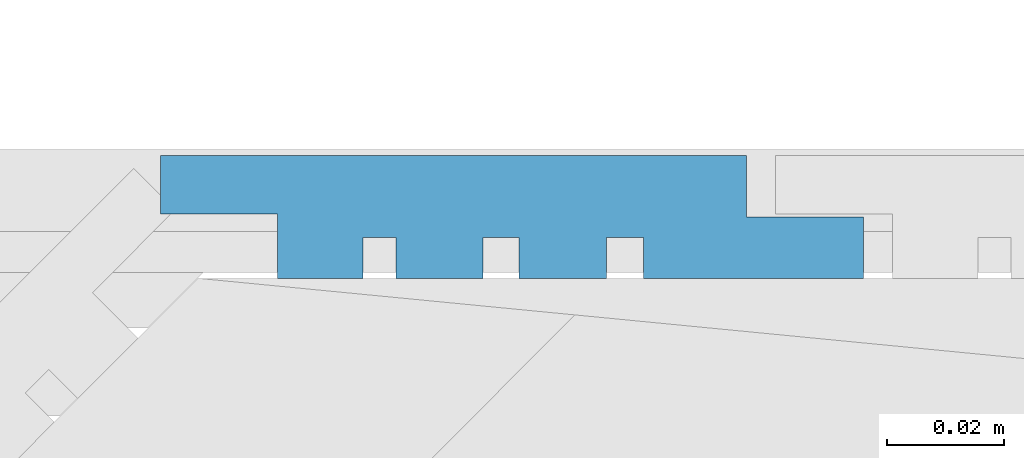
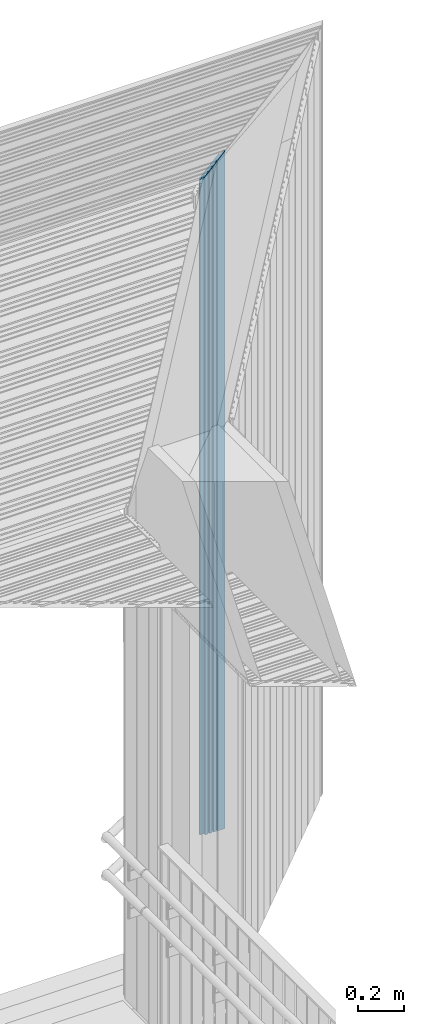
# One storey, part 144 of 418: 1 building element part, 1 element without a shape of its own.
"""IFC2X3 building model written with IfcOpenShell, lengths in millimetres."""

from ifc_helpers import new_model, entity, si_unit, converted_unit, derived_unit, money_unit, direction, frame, origin_with_axes, place, context, subcontext, project, spatial, polyline, outline, extrude, boolean, faceted_brep, material, type_object, element, aggregate, save


model = new_model("IFC2X3")

# Units and contexts
model_context = context("Model", 3, precision=0.01, world=origin_with_axes(), true_north=direction((0.0, 1.0)))
body_context = subcontext(model_context, "Body", "Model", "MODEL_VIEW")
ifc_project = project(units=[si_unit("LENGTHUNIT", "METRE", prefix="MILLI"), si_unit("AREAUNIT", "SQUARE_METRE"), si_unit("VOLUMEUNIT", "CUBIC_METRE"), converted_unit("PLANEANGLEUNIT", "DEGREE", entity("IfcPlaneAngleMeasure", 0.0174532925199), si_unit("PLANEANGLEUNIT", "RADIAN"), dimensions=[0, 0, 0, 0, 0, 0, 0]), si_unit("SOLIDANGLEUNIT", "STERADIAN"), money_unit("EUR"), converted_unit("TIMEUNIT", "Year", entity("IfcTimeMeasure", 31556926.0), si_unit("TIMEUNIT", "SECOND"), dimensions=[0, 0, 1, 0, 0, 0, 0]), si_unit("MASSUNIT", "GRAM", prefix="KILO"), si_unit("THERMODYNAMICTEMPERATUREUNIT", "DEGREE_CELSIUS"), si_unit("LUMINOUSINTENSITYUNIT", "LUMEN"), si_unit("ENERGYUNIT", "JOULE", prefix="MEGA"), derived_unit("THERMALCONDUCTANCEUNIT", [(si_unit("POWERUNIT", "WATT"), 1), (si_unit("LENGTHUNIT", "METRE"), -1), (si_unit("THERMODYNAMICTEMPERATUREUNIT", "KELVIN"), -1)]), derived_unit("SPECIFICHEATCAPACITYUNIT", [(si_unit("ENERGYUNIT", "JOULE"), 1), (si_unit("MASSUNIT", "GRAM", prefix="KILO"), -1), (si_unit("THERMODYNAMICTEMPERATUREUNIT", "KELVIN"), -1)]), derived_unit("MASSDENSITYUNIT", [(si_unit("MASSUNIT", "GRAM", prefix="KILO"), 1), (si_unit("VOLUMEUNIT", "CUBIC_METRE"), -1)])], contexts=[model_context])

# Site, building, storey
site_placement = place(None, origin_with_axes())
site = spatial("IfcSite", under=ifc_project, at=site_placement, Name="Paldiski mnt 245/1, Tallinn, Harjumaa", CompositionType="COMPLEX")
building_placement = place(site_placement, origin_with_axes())
building = spatial("IfcBuilding", under=site, at=building_placement, Name="RKAS Hoone üldnimetus (kasutust iseloomustav) -> IFC Project Manager -> SOLIBRI", CompositionType="ELEMENT")
storey_placement = place(building_placement, origin_with_axes())
storey = spatial("IfcBuildingStorey", under=building, at=storey_placement, Name="Esimene korrus", CompositionType="ELEMENT", Elevation=0.0)

# Proxy, building element part
building_element_proxy_type = type_object("IfcBuildingElementProxyType", Name="Laudis esiprofiil_01 21 x 622", PredefinedType="NOTDEFINED")
proxy_placement = place(storey_placement, frame((-46724.4601459, 39788.252735, 0.0), z_axis=(0.0, 0.0, 1.0), x_axis=(0.0, -1.0, 0.0)))
proxy = element("IfcBuildingElementProxy", 1, at=proxy_placement, inside=storey, type_object=building_element_proxy_type, Name="Varikatus")
ifc_material = material(Name="Laudis 5072 Honka 45 horisontaalne raastas")
building_element_part_placement = place(proxy_placement, origin_with_axes())
building_element_part = element("IfcBuildingElementPart", 2, at=building_element_part_placement, material=ifc_material, Name="Laudis 5072 Honka 45 horisontaalne raastas", context=body_context, shape_type="CSG", body=[
    boolean("DIFFERENCE", boolean("DIFFERENCE", boolean("DIFFERENCE", boolean("DIFFERENCE", boolean("DIFFERENCE", boolean("DIFFERENCE", extrude(outline(polyline([(3.20348192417e-08, -520.971430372), (-10.5000010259, -520.971430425), (-10.5000005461, -500.971429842), (-20.9999998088, -500.971430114), (-21.0000010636, -538.497524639), (-14.0000005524, -538.497525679), (-14.0000003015, -544.860022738), (-20.99999981, -544.860022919), (-20.9999998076, -559.79914009), (-14.0000002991, -559.799139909), (-14.0000007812, -565.926080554), (-21.0000002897, -565.926080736), (-21.0000013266, -580.754573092), (-14.0000008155, -580.754574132), (-14.0000015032, -586.395242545), (-21.0000010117, -586.395242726), (-21.0000007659, -600.971429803), (-10.000001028, -600.971430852), (-10.0000002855, -620.971430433), (-7.63172636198e-07, -620.971430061), (3.20348192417e-08, -520.971430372)])), frame((0.0, 0.0, 0.0), z_axis=(0.0, 0.0, -1.0), x_axis=(-1.0, 0.0, 0.0)), (0.0, 0.0, -1.0), 4086.15997799), faceted_brep([(20.9999998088, -395.971430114, 3689.02857107), (10.5000005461, -395.971429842, 3689.02857134), (10.5000005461, -395.971429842, 4086.15997799), (20.9999998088, -395.971430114, 4086.15997799), (10.5000010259, -415.971430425, 3669.02857076), (21.0000010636, -433.497524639, 3651.50247655), (14.0000005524, -433.497525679, 3651.50247551), (14.0000003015, -439.860022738, 3645.13997845), (20.99999981, -439.860022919, 3645.13997827), (20.9999998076, -454.79914009, 3630.20086109), (14.0000002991, -454.799139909, 3630.20086128), (14.0000007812, -460.926080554, 3624.07392063), (21.0000002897, -460.926080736, 3624.07392045), (21.0000013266, -475.754573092, 3609.24542809), (14.0000008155, -475.754574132, 3609.24542705), (14.0000015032, -481.395242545, 3603.60475864), (21.0000010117, -481.395242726, 3603.60475846), (21.0000007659, -495.971429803, 3589.02857138), (10.000001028, -495.971430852, 3589.02857033), (10.0000002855, -515.971430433, 3569.02857075), (7.6316553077e-07, -515.971430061, 3569.02857112), (-3.20383719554e-08, -415.971430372, 3669.02857081), (10.5000010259, -415.971430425, 4086.15997799), (-3.20383719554e-08, -415.971430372, 4086.15997799), (7.6316553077e-07, -515.971430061, 4086.15997799), (10.0000002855, -515.971430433, 4086.15997799), (10.000001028, -495.971430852, 4086.15997799), (21.0000007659, -495.971429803, 4086.15997799), (21.0000010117, -481.395242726, 4086.15997799), (14.0000015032, -481.395242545, 4086.15997799), (14.0000008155, -475.754574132, 4086.15997799), (21.0000013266, -475.754573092, 4086.15997799), (21.0000002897, -460.926080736, 4086.15997799), (14.0000007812, -460.926080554, 4086.15997799), (14.0000002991, -454.799139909, 4086.15997799), (20.9999998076, -454.79914009, 4086.15997799), (20.99999981, -439.860022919, 4086.15997799), (14.0000003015, -439.860022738, 4086.15997799), (14.0000005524, -433.497525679, 4086.15997799), (21.0000010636, -433.497524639, 4086.15997799)], [[[0, 1, 2, 3]], [[4, 1, 0, 5, 6, 7, 8, 9, 10, 11, 12, 13, 14, 15, 16, 17, 18, 19, 20, 21]], [[1, 4, 22, 2]], [[22, 23, 24, 25, 26, 27, 28, 29, 30, 31, 32, 33, 34, 35, 36, 37, 38, 39, 3, 2]], [[5, 0, 3, 39]], [[6, 5, 39, 38]], [[7, 6, 38, 37]], [[8, 7, 37, 36]], [[9, 8, 36, 35]], [[10, 9, 35, 34]], [[11, 10, 34, 33]], [[12, 11, 33, 32]], [[13, 12, 32, 31]], [[14, 13, 31, 30]], [[15, 14, 30, 29]], [[16, 15, 29, 28]], [[17, 16, 28, 27]], [[18, 17, 27, 26]], [[19, 18, 26, 25]], [[20, 19, 25, 24]], [[21, 20, 24, 23]], [[4, 21, 23, 22]]])), faceted_brep([(20.9999998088, -500.971430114, 3584.02857107), (10.5000005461, -500.971429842, 3584.02857134), (10.5000005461, -500.971429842, 4086.15997799), (20.9999998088, -500.971430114, 4086.15997799), (10.5000010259, -520.971430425, 3564.02857076), (21.0000010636, -538.497524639, 3546.50247655), (14.0000005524, -538.497525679, 3546.50247551), (14.0000003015, -544.860022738, 3540.13997845), (20.99999981, -544.860022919, 3540.13997827), (20.9999998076, -559.79914009, 3525.20086109), (14.0000002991, -559.799139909, 3525.20086128), (14.0000007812, -565.926080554, 3519.07392063), (21.0000002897, -565.926080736, 3519.07392045), (21.0000013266, -580.754573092, 3504.24542809), (14.0000008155, -580.754574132, 3504.24542705), (14.0000015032, -586.395242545, 3498.60475864), (21.0000010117, -586.395242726, 3498.60475846), (21.0000007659, -600.971429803, 3484.02857138), (10.000001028, -600.971430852, 3484.02857033), (10.0000002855, -620.971430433, 3464.02857075), (7.63172636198e-07, -620.971430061, 3464.02857112), (-3.20383719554e-08, -520.971430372, 3564.02857081), (10.5000010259, -520.971430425, 4086.15997799), (-3.20383719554e-08, -520.971430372, 4086.15997799), (7.63172636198e-07, -620.971430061, 4086.15997799), (10.0000002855, -620.971430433, 4086.15997799), (10.000001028, -600.971430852, 4086.15997799), (21.0000007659, -600.971429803, 4086.15997799), (21.0000010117, -586.395242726, 4086.15997799), (14.0000015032, -586.395242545, 4086.15997799), (14.0000008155, -580.754574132, 4086.15997799), (21.0000013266, -580.754573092, 4086.15997799), (21.0000002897, -565.926080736, 4086.15997799), (14.0000007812, -565.926080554, 4086.15997799), (14.0000002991, -559.799139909, 4086.15997799), (20.9999998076, -559.79914009, 4086.15997799), (20.99999981, -544.860022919, 4086.15997799), (14.0000003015, -544.860022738, 4086.15997799), (14.0000005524, -538.497525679, 4086.15997799), (21.0000010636, -538.497524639, 4086.15997799)], [[[0, 1, 2, 3]], [[4, 1, 0, 5, 6, 7, 8, 9, 10, 11, 12, 13, 14, 15, 16, 17, 18, 19, 20, 21]], [[1, 4, 22, 2]], [[22, 23, 24, 25, 26, 27, 28, 29, 30, 31, 32, 33, 34, 35, 36, 37, 38, 39, 3, 2]], [[5, 0, 3, 39]], [[6, 5, 39, 38]], [[7, 6, 38, 37]], [[8, 7, 37, 36]], [[9, 8, 36, 35]], [[10, 9, 35, 34]], [[11, 10, 34, 33]], [[12, 11, 33, 32]], [[13, 12, 32, 31]], [[14, 13, 31, 30]], [[15, 14, 30, 29]], [[16, 15, 29, 28]], [[17, 16, 28, 27]], [[18, 17, 27, 26]], [[19, 18, 26, 25]], [[20, 19, 25, 24]], [[21, 20, 24, 23]], [[4, 21, 23, 22]]])), faceted_brep([(20.9999998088, -185.971430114, 3899.02857107), (10.5000005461, -185.971429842, 3899.02857134), (10.5000005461, -185.971429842, 4086.15997799), (20.9999998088, -185.971430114, 4086.15997799), (10.5000010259, -205.971430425, 3879.02857076), (21.0000010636, -223.497524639, 3861.50247655), (14.0000005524, -223.497525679, 3861.50247551), (14.0000003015, -229.860022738, 3855.13997845), (20.99999981, -229.860022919, 3855.13997827), (20.9999998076, -244.79914009, 3840.20086109), (14.0000002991, -244.799139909, 3840.20086128), (14.0000007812, -250.926080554, 3834.07392063), (21.0000002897, -250.926080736, 3834.07392045), (21.0000013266, -265.754573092, 3819.24542809), (14.0000008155, -265.754574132, 3819.24542705), (14.0000015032, -271.395242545, 3813.60475864), (21.0000010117, -271.395242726, 3813.60475846), (21.0000007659, -285.971429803, 3799.02857138), (10.000001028, -285.971430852, 3799.02857033), (10.0000002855, -305.971430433, 3779.02857075), (7.63172636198e-07, -305.971430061, 3779.02857112), (-3.20383719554e-08, -205.971430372, 3879.02857081), (10.5000010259, -205.971430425, 4086.15997799), (-3.20383719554e-08, -205.971430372, 4086.15997799), (7.63172636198e-07, -305.971430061, 4086.15997799), (10.0000002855, -305.971430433, 4086.15997799), (10.000001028, -285.971430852, 4086.15997799), (21.0000007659, -285.971429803, 4086.15997799), (21.0000010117, -271.395242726, 4086.15997799), (14.0000015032, -271.395242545, 4086.15997799), (14.0000008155, -265.754574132, 4086.15997799), (21.0000013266, -265.754573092, 4086.15997799), (21.0000002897, -250.926080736, 4086.15997799), (14.0000007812, -250.926080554, 4086.15997799), (14.0000002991, -244.799139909, 4086.15997799), (20.9999998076, -244.79914009, 4086.15997799), (20.99999981, -229.860022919, 4086.15997799), (14.0000003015, -229.860022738, 4086.15997799), (14.0000005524, -223.497525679, 4086.15997799), (21.0000010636, -223.497524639, 4086.15997799)], [[[0, 1, 2, 3]], [[4, 1, 0, 5, 6, 7, 8, 9, 10, 11, 12, 13, 14, 15, 16, 17, 18, 19, 20, 21]], [[1, 4, 22, 2]], [[22, 23, 24, 25, 26, 27, 28, 29, 30, 31, 32, 33, 34, 35, 36, 37, 38, 39, 3, 2]], [[5, 0, 3, 39]], [[6, 5, 39, 38]], [[7, 6, 38, 37]], [[8, 7, 37, 36]], [[9, 8, 36, 35]], [[10, 9, 35, 34]], [[11, 10, 34, 33]], [[12, 11, 33, 32]], [[13, 12, 32, 31]], [[14, 13, 31, 30]], [[15, 14, 30, 29]], [[16, 15, 29, 28]], [[17, 16, 28, 27]], [[18, 17, 27, 26]], [[19, 18, 26, 25]], [[20, 19, 25, 24]], [[21, 20, 24, 23]], [[4, 21, 23, 22]]])), faceted_brep([(20.9999998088, -290.971430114, 3794.02857107), (10.5000005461, -290.971429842, 3794.02857134), (10.5000005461, -290.971429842, 4086.15997799), (20.9999998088, -290.971430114, 4086.15997799), (10.5000010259, -310.971430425, 3774.02857076), (21.0000010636, -328.497524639, 3756.50247655), (14.0000005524, -328.497525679, 3756.50247551), (14.0000003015, -334.860022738, 3750.13997845), (20.99999981, -334.860022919, 3750.13997827), (20.9999998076, -349.79914009, 3735.20086109), (14.0000002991, -349.799139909, 3735.20086128), (14.0000007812, -355.926080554, 3729.07392063), (21.0000002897, -355.926080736, 3729.07392045), (21.0000013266, -370.754573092, 3714.24542809), (14.0000008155, -370.754574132, 3714.24542705), (14.0000015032, -376.395242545, 3708.60475864), (21.0000010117, -376.395242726, 3708.60475846), (21.0000007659, -390.971429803, 3694.02857138), (10.000001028, -390.971430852, 3694.02857033), (10.0000002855, -410.971430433, 3674.02857075), (7.6316553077e-07, -410.971430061, 3674.02857112), (-3.20383719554e-08, -310.971430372, 3774.02857081), (10.5000010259, -310.971430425, 4086.15997799), (-3.20383719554e-08, -310.971430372, 4086.15997799), (7.6316553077e-07, -410.971430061, 4086.15997799), (10.0000002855, -410.971430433, 4086.15997799), (10.000001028, -390.971430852, 4086.15997799), (21.0000007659, -390.971429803, 4086.15997799), (21.0000010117, -376.395242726, 4086.15997799), (14.0000015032, -376.395242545, 4086.15997799), (14.0000008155, -370.754574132, 4086.15997799), (21.0000013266, -370.754573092, 4086.15997799), (21.0000002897, -355.926080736, 4086.15997799), (14.0000007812, -355.926080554, 4086.15997799), (14.0000002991, -349.799139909, 4086.15997799), (20.9999998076, -349.79914009, 4086.15997799), (20.99999981, -334.860022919, 4086.15997799), (14.0000003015, -334.860022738, 4086.15997799), (14.0000005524, -328.497525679, 4086.15997799), (21.0000010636, -328.497524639, 4086.15997799)], [[[0, 1, 2, 3]], [[4, 1, 0, 5, 6, 7, 8, 9, 10, 11, 12, 13, 14, 15, 16, 17, 18, 19, 20, 21]], [[1, 4, 22, 2]], [[22, 23, 24, 25, 26, 27, 28, 29, 30, 31, 32, 33, 34, 35, 36, 37, 38, 39, 3, 2]], [[5, 0, 3, 39]], [[6, 5, 39, 38]], [[7, 6, 38, 37]], [[8, 7, 37, 36]], [[9, 8, 36, 35]], [[10, 9, 35, 34]], [[11, 10, 34, 33]], [[12, 11, 33, 32]], [[13, 12, 32, 31]], [[14, 13, 31, 30]], [[15, 14, 30, 29]], [[16, 15, 29, 28]], [[17, 16, 28, 27]], [[18, 17, 27, 26]], [[19, 18, 26, 25]], [[20, 19, 25, 24]], [[21, 20, 24, 23]], [[4, 21, 23, 22]]])), faceted_brep([(14.0000008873, -12.860024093, 4072.13997709), (-8.29203372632e-09, 1.13997680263, 4086.13997799), (-8.29203372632e-09, 1.13997680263, 4086.15997799), (14.0000008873, -12.860024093, 4086.15997799), (1.4387921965e-06, -95.9714304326, 3989.02857075), (14.0000008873, -19.8600231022, 4065.13997808), (20.9999998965, -19.8600231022, 4065.13997808), (20.9999998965, -34.7991407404, 4050.20086044), (14.0000008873, -34.7991393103, 4050.20086187), (14.0000008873, -40.9260801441, 4044.07392104), (20.9999998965, -40.9260801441, 4044.07392104), (21.0000013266, -55.7545733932, 4029.24542779), (14.0000008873, -55.7545748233, 4029.24542636), (14.0000008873, -61.3952431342, 4023.60475805), (21.0000013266, -61.3952431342, 4023.60475805), (21.0000013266, -75.9714304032, 4009.02857078), (10.0000014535, -75.9714304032, 4009.02857078), (10.0000000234, -95.9714304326, 3989.02857075), (1.4387921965e-06, -95.9714304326, 4086.15997799), (14.0000008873, -55.7545748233, 4086.15997799), (21.0000013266, -55.7545733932, 4086.15997799), (20.9999998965, -40.9260801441, 4086.15997799), (14.0000008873, -40.9260801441, 4086.15997799), (14.0000008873, -34.7991393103, 4086.15997799), (20.9999998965, -34.7991407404, 4086.15997799), (20.9999998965, -19.8600231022, 4086.15997799), (14.0000008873, -19.8600231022, 4086.15997799), (10.0000000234, -95.9714304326, 4086.15997799), (10.0000014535, -75.9714304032, 4086.15997799), (21.0000013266, -75.9714304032, 4086.15997799), (21.0000013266, -61.3952431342, 4086.15997799), (14.0000008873, -61.3952431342, 4086.15997799)], [[[0, 1, 2, 3]], [[4, 1, 0, 5, 6, 7, 8, 9, 10, 11, 12, 13, 14, 15, 16, 17]], [[1, 4, 18, 2]], [[19, 20, 21, 22, 23, 24, 25, 26, 3, 2, 18, 27, 28, 29, 30, 31]], [[5, 0, 3, 26]], [[6, 5, 26, 25]], [[7, 6, 25, 24]], [[8, 7, 24, 23]], [[9, 8, 23, 22]], [[10, 9, 22, 21]], [[11, 10, 21, 20]], [[12, 11, 20, 19]], [[13, 12, 19, 31]], [[14, 13, 31, 30]], [[15, 14, 30, 29]], [[16, 15, 29, 28]], [[17, 16, 28, 27]], [[4, 17, 27, 18]]])), faceted_brep([(20.9999998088, -80.9714301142, 4004.02857107), (10.5000005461, -80.9714298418, 4004.02857134), (10.5000005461, -80.9714298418, 4086.15997799), (20.9999998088, -80.9714301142, 4086.15997799), (10.5000010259, -100.971430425, 3984.02857076), (21.0000010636, -118.497524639, 3966.50247655), (14.0000005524, -118.497525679, 3966.50247551), (14.0000003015, -124.860022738, 3960.13997845), (20.99999981, -124.860022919, 3960.13997827), (20.9999998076, -139.79914009, 3945.20086109), (14.0000002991, -139.799139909, 3945.20086128), (14.0000007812, -145.926080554, 3939.07392063), (21.0000002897, -145.926080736, 3939.07392045), (21.0000013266, -160.754573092, 3924.24542809), (14.0000008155, -160.754574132, 3924.24542705), (14.0000015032, -166.395242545, 3918.60475864), (21.0000010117, -166.395242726, 3918.60475846), (21.0000007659, -180.971429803, 3904.02857138), (10.000001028, -180.971430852, 3904.02857033), (10.0000002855, -200.971430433, 3884.02857075), (7.6316553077e-07, -200.971430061, 3884.02857112), (-3.20383719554e-08, -100.971430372, 3984.02857081), (10.5000010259, -100.971430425, 4086.15997799), (-3.20383719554e-08, -100.971430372, 4086.15997799), (7.6316553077e-07, -200.971430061, 4086.15997799), (10.0000002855, -200.971430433, 4086.15997799), (10.000001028, -180.971430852, 4086.15997799), (21.0000007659, -180.971429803, 4086.15997799), (21.0000010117, -166.395242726, 4086.15997799), (14.0000015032, -166.395242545, 4086.15997799), (14.0000008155, -160.754574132, 4086.15997799), (21.0000013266, -160.754573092, 4086.15997799), (21.0000002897, -145.926080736, 4086.15997799), (14.0000007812, -145.926080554, 4086.15997799), (14.0000002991, -139.799139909, 4086.15997799), (20.9999998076, -139.79914009, 4086.15997799), (20.99999981, -124.860022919, 4086.15997799), (14.0000003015, -124.860022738, 4086.15997799), (14.0000005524, -118.497525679, 4086.15997799), (21.0000010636, -118.497524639, 4086.15997799)], [[[0, 1, 2, 3]], [[4, 1, 0, 5, 6, 7, 8, 9, 10, 11, 12, 13, 14, 15, 16, 17, 18, 19, 20, 21]], [[1, 4, 22, 2]], [[22, 23, 24, 25, 26, 27, 28, 29, 30, 31, 32, 33, 34, 35, 36, 37, 38, 39, 3, 2]], [[5, 0, 3, 39]], [[6, 5, 39, 38]], [[7, 6, 38, 37]], [[8, 7, 37, 36]], [[9, 8, 36, 35]], [[10, 9, 35, 34]], [[11, 10, 34, 33]], [[12, 11, 33, 32]], [[13, 12, 32, 31]], [[14, 13, 31, 30]], [[15, 14, 30, 29]], [[16, 15, 29, 28]], [[17, 16, 28, 27]], [[18, 17, 27, 26]], [[19, 18, 26, 25]], [[20, 19, 25, 24]], [[21, 20, 24, 23]], [[4, 21, 23, 22]]])),
])
aggregate(proxy, [building_element_part])

save(model, "model.ifc")
